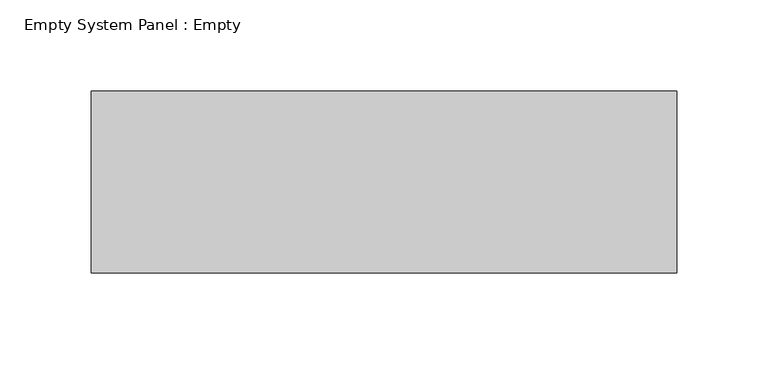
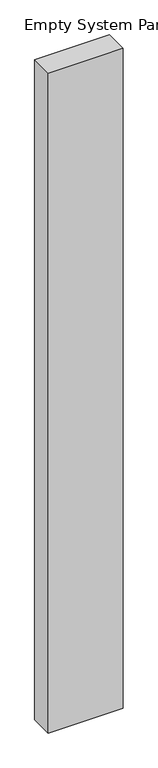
"""IFC4 building model written with IfcOpenShell, lengths in millimetres: plate geometry, Empty System Panel : Empty."""

from ifc_helpers import new_model, si_unit, origin, origin_with_axes, place, context, project, spatial, polyline, outline, extrude, source, transform, mapped, element, save


def empty_system_panel_empty_f688b100(model_context):
    return source(origin(), model_context, "Body", "SweptSolid", [
        extrude(outline(polyline([(160.75, -50.0), (-160.75, -50.0), (-160.75, 50.0), (160.75, 50.0), (160.75, -50.0)])), origin_with_axes(), (0.0, 0.0, 1.0), 3000.0),
    ])


if __name__ == "__main__":
    model = new_model("IFC4")
    model_context = context("Model", 3, world=origin())
    ifc_project = project(units=[si_unit("LENGTHUNIT", "METRE", prefix="MILLI")], contexts=[model_context])
    site = spatial("IfcSite", under=ifc_project)
    building = spatial("IfcBuilding", under=site)
    placement = place(None, origin())
    empty_system_panel_empty_shape = empty_system_panel_empty_f688b100(model_context)
    element("IfcPlate", 1, ObjectType="Empty System Panel : Empty", at=placement, inside=building, context=model_context, shape_type="MappedRepresentation", body=[
        mapped(empty_system_panel_empty_shape, transform((0.0, 0.0, 0.0), x_axis=(1.0, 0.0, 0.0), y_axis=(0.0, 1.0, 0.0), z_axis=(0.0, 0.0, 1.0))),
    ])
    save(model, "model.ifc")
